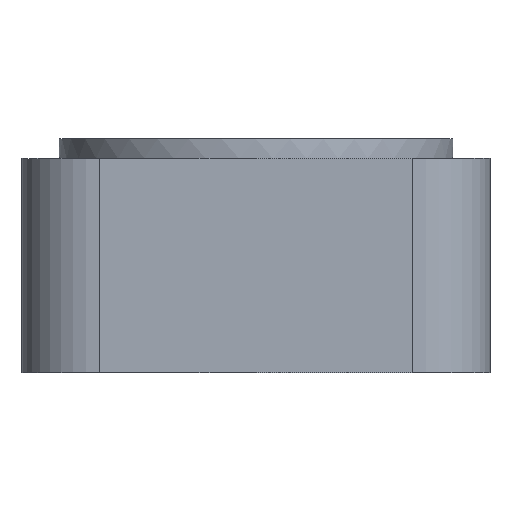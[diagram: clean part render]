
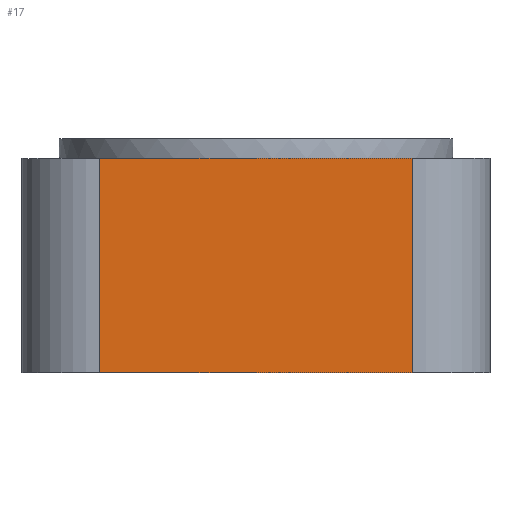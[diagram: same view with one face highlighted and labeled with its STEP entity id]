
A CAD part, left-side view. The second image highlights one B-rep face of the part: STEP entity #17.
In plain terms, the highlighted planar face has unit normal (-1, 0, 0).
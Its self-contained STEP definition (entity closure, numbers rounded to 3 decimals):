
#17 = ADVANCED_FACE('',(#18),#32,.F.);
#18 = FACE_BOUND('',#19,.F.);
#19 = EDGE_LOOP('',(#20,#55,#83,#111));
#20 = ORIENTED_EDGE('',*,*,#21,.F.);
#21 = EDGE_CURVE('',#22,#24,#26,.T.);
#22 = VERTEX_POINT('',#23);
#23 = CARTESIAN_POINT('',(-62.,-40.,55.));
#24 = VERTEX_POINT('',#25);
#25 = CARTESIAN_POINT('',(-62.,40.,55.));
#26 = SURFACE_CURVE('',#27,(#31,#43),.PCURVE_S1.);
#27 = LINE('',#28,#29);
#28 = CARTESIAN_POINT('',(-62.,-60.,55.));
#29 = VECTOR('',#30,1.);
#30 = DIRECTION('',(0.,1.,0.));
#31 = PCURVE('',#32,#37);
#32 = PLANE('',#33);
#33 = AXIS2_PLACEMENT_3D('',#34,#35,#36);
#34 = CARTESIAN_POINT('',(-62.,-60.,0.));
#35 = DIRECTION('',(1.,0.,0.));
#36 = DIRECTION('',(0.,0.,1.));
#37 = DEFINITIONAL_REPRESENTATION('',(#38),#42);
#38 = LINE('',#39,#40);
#39 = CARTESIAN_POINT('',(55.,0.));
#40 = VECTOR('',#41,1.);
#41 = DIRECTION('',(0.,-1.));
#42 = ( GEOMETRIC_REPRESENTATION_CONTEXT(2) 
PARAMETRIC_REPRESENTATION_CONTEXT() REPRESENTATION_CONTEXT('2D SPACE',''
  ) );
#43 = PCURVE('',#44,#49);
#44 = PLANE('',#45);
#45 = AXIS2_PLACEMENT_3D('',#46,#47,#48);
#46 = CARTESIAN_POINT('',(-62.,-60.,55.));
#47 = DIRECTION('',(0.,0.,1.));
#48 = DIRECTION('',(1.,0.,0.));
#49 = DEFINITIONAL_REPRESENTATION('',(#50),#54);
#50 = LINE('',#51,#52);
#51 = CARTESIAN_POINT('',(0.,0.));
#52 = VECTOR('',#53,1.);
#53 = DIRECTION('',(0.,1.));
#54 = ( GEOMETRIC_REPRESENTATION_CONTEXT(2) 
PARAMETRIC_REPRESENTATION_CONTEXT() REPRESENTATION_CONTEXT('2D SPACE',''
  ) );
#55 = ORIENTED_EDGE('',*,*,#56,.F.);
#56 = EDGE_CURVE('',#57,#22,#59,.T.);
#57 = VERTEX_POINT('',#58);
#58 = CARTESIAN_POINT('',(-62.,-40.,0.));
#59 = SURFACE_CURVE('',#60,(#64,#71),.PCURVE_S1.);
#60 = LINE('',#61,#62);
#61 = CARTESIAN_POINT('',(-62.,-40.,0.));
#62 = VECTOR('',#63,1.);
#63 = DIRECTION('',(0.,0.,1.));
#64 = PCURVE('',#32,#65);
#65 = DEFINITIONAL_REPRESENTATION('',(#66),#70);
#66 = LINE('',#67,#68);
#67 = CARTESIAN_POINT('',(0.,-20.));
#68 = VECTOR('',#69,1.);
#69 = DIRECTION('',(1.,0.));
#70 = ( GEOMETRIC_REPRESENTATION_CONTEXT(2) 
PARAMETRIC_REPRESENTATION_CONTEXT() REPRESENTATION_CONTEXT('2D SPACE',''
  ) );
#71 = PCURVE('',#72,#77);
#72 = CYLINDRICAL_SURFACE('',#73,20.);
#73 = AXIS2_PLACEMENT_3D('',#74,#75,#76);
#74 = CARTESIAN_POINT('',(-42.,-40.,0.));
#75 = DIRECTION('',(0.,0.,1.));
#76 = DIRECTION('',(-1.,-0.,0.));
#77 = DEFINITIONAL_REPRESENTATION('',(#78),#82);
#78 = LINE('',#79,#80);
#79 = CARTESIAN_POINT('',(0.,0.));
#80 = VECTOR('',#81,1.);
#81 = DIRECTION('',(0.,1.));
#82 = ( GEOMETRIC_REPRESENTATION_CONTEXT(2) 
PARAMETRIC_REPRESENTATION_CONTEXT() REPRESENTATION_CONTEXT('2D SPACE',''
  ) );
#83 = ORIENTED_EDGE('',*,*,#84,.T.);
#84 = EDGE_CURVE('',#57,#85,#87,.T.);
#85 = VERTEX_POINT('',#86);
#86 = CARTESIAN_POINT('',(-62.,40.,0.));
#87 = SURFACE_CURVE('',#88,(#92,#99),.PCURVE_S1.);
#88 = LINE('',#89,#90);
#89 = CARTESIAN_POINT('',(-62.,-60.,0.));
#90 = VECTOR('',#91,1.);
#91 = DIRECTION('',(0.,1.,0.));
#92 = PCURVE('',#32,#93);
#93 = DEFINITIONAL_REPRESENTATION('',(#94),#98);
#94 = LINE('',#95,#96);
#95 = CARTESIAN_POINT('',(0.,0.));
#96 = VECTOR('',#97,1.);
#97 = DIRECTION('',(0.,-1.));
#98 = ( GEOMETRIC_REPRESENTATION_CONTEXT(2) 
PARAMETRIC_REPRESENTATION_CONTEXT() REPRESENTATION_CONTEXT('2D SPACE',''
  ) );
#99 = PCURVE('',#100,#105);
#100 = PLANE('',#101);
#101 = AXIS2_PLACEMENT_3D('',#102,#103,#104);
#102 = CARTESIAN_POINT('',(-62.,-60.,0.));
#103 = DIRECTION('',(0.,0.,1.));
#104 = DIRECTION('',(1.,0.,0.));
#105 = DEFINITIONAL_REPRESENTATION('',(#106),#110);
#106 = LINE('',#107,#108);
#107 = CARTESIAN_POINT('',(0.,0.));
#108 = VECTOR('',#109,1.);
#109 = DIRECTION('',(0.,1.));
#110 = ( GEOMETRIC_REPRESENTATION_CONTEXT(2) 
PARAMETRIC_REPRESENTATION_CONTEXT() REPRESENTATION_CONTEXT('2D SPACE',''
  ) );
#111 = ORIENTED_EDGE('',*,*,#112,.T.);
#112 = EDGE_CURVE('',#85,#24,#113,.T.);
#113 = SURFACE_CURVE('',#114,(#118,#125),.PCURVE_S1.);
#114 = LINE('',#115,#116);
#115 = CARTESIAN_POINT('',(-62.,40.,0.));
#116 = VECTOR('',#117,1.);
#117 = DIRECTION('',(0.,0.,1.));
#118 = PCURVE('',#32,#119);
#119 = DEFINITIONAL_REPRESENTATION('',(#120),#124);
#120 = LINE('',#121,#122);
#121 = CARTESIAN_POINT('',(0.,-100.));
#122 = VECTOR('',#123,1.);
#123 = DIRECTION('',(1.,0.));
#124 = ( GEOMETRIC_REPRESENTATION_CONTEXT(2) 
PARAMETRIC_REPRESENTATION_CONTEXT() REPRESENTATION_CONTEXT('2D SPACE',''
  ) );
#125 = PCURVE('',#126,#131);
#126 = CYLINDRICAL_SURFACE('',#127,20.);
#127 = AXIS2_PLACEMENT_3D('',#128,#129,#130);
#128 = CARTESIAN_POINT('',(-42.,40.,0.));
#129 = DIRECTION('',(0.,0.,1.));
#130 = DIRECTION('',(-1.,-0.,0.));
#131 = DEFINITIONAL_REPRESENTATION('',(#132),#136);
#132 = LINE('',#133,#134);
#133 = CARTESIAN_POINT('',(-0.,0.));
#134 = VECTOR('',#135,1.);
#135 = DIRECTION('',(-0.,1.));
#136 = ( GEOMETRIC_REPRESENTATION_CONTEXT(2) 
PARAMETRIC_REPRESENTATION_CONTEXT() REPRESENTATION_CONTEXT('2D SPACE',''
  ) );
